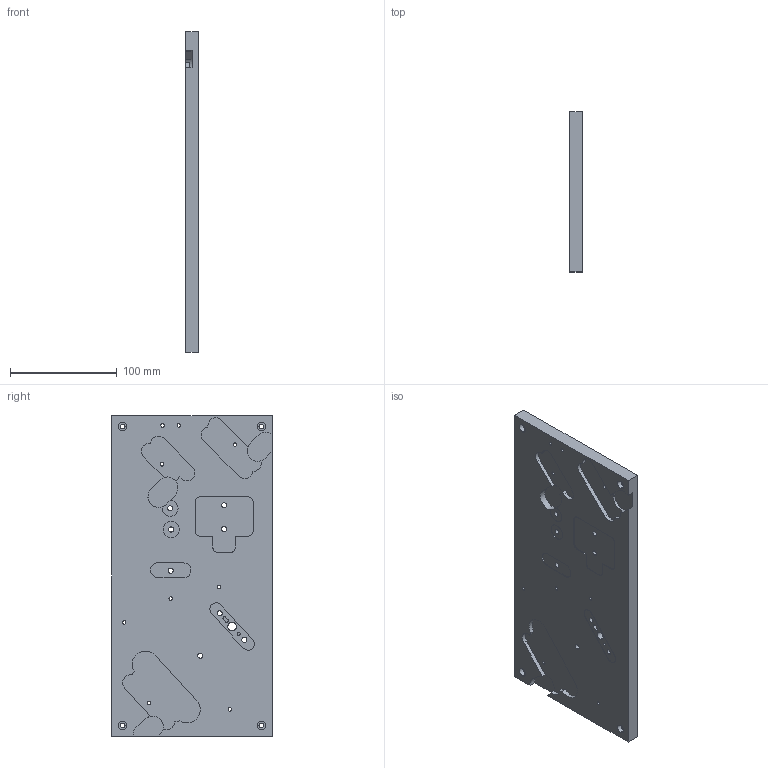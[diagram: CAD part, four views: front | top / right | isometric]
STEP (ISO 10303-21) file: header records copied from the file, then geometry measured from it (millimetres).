
FILE_DESCRIPTION (( 'STEP AP203' ), '1' );
FILE_NAME ('2020-02_1 - BASE PLATE.STEP', '2020-04-18T08:46:55', ( '' ), ( '' ), 'SwSTEP 2.0', 'SolidWorks 2018', '' );
FILE_SCHEMA (( 'CONFIG_CONTROL_DESIGN' ));
Length unit declared in the file: millimetre
Products named in the file (1): 2020-02_1 - BASE PLATE
Bounding box: 12 x 150 x 300 mm (x, y, z)
Volume: 502201.6 mm3; surface area: 107115.6 mm2
Topology: 1 solids, 1 shells, 176 faces, 465 edges, 310 vertices
Faces by surface type: cylinder 118, plane 58
Entity records: 5737 total; most frequent: DIRECTION 1062, CARTESIAN_POINT 952, ORIENTED_EDGE 930, EDGE_CURVE 465, AXIS2_PLACEMENT_3D 420, VERTEX_POINT 310, CIRCLE 243, EDGE_LOOP 239
